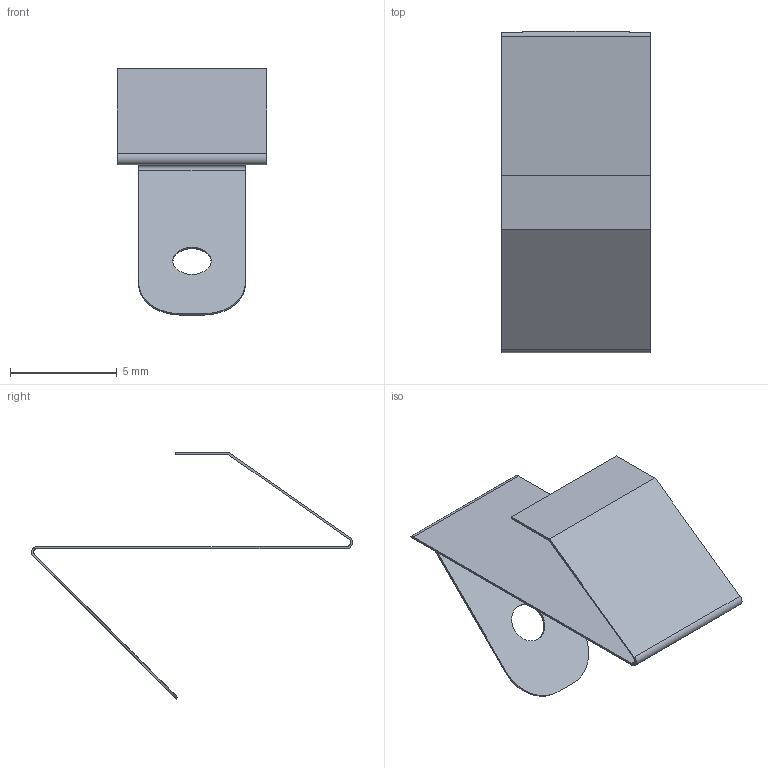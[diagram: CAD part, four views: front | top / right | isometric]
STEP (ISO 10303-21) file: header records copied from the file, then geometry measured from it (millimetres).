
FILE_DESCRIPTION (( 'STEP AP214' ), '1' );
FILE_NAME ('Conector electric PP82.STEP', '2018-01-23T11:16:32', ( 'aaa' ), ( '' ), 'SwSTEP 2.0', 'SolidWorks 2013', '' );
FILE_SCHEMA (( 'AUTOMOTIVE_DESIGN' ));
Length unit declared in the file: millimetre
Products named in the file (1): Conector electric PP82
Bounding box: 7 x 15.05 x 11.54 mm (x, y, z)
Volume: 21.8 mm3; surface area: 443.8 mm2
Topology: 1 solids, 1 shells, 22 faces, 60 edges, 40 vertices
Faces by surface type: plane 14, cylinder 8
Entity records: 740 total; most frequent: DIRECTION 124, CARTESIAN_POINT 123, ORIENTED_EDGE 120, EDGE_CURVE 60, VECTOR 42, LINE 42, AXIS2_PLACEMENT_3D 41, VERTEX_POINT 40
